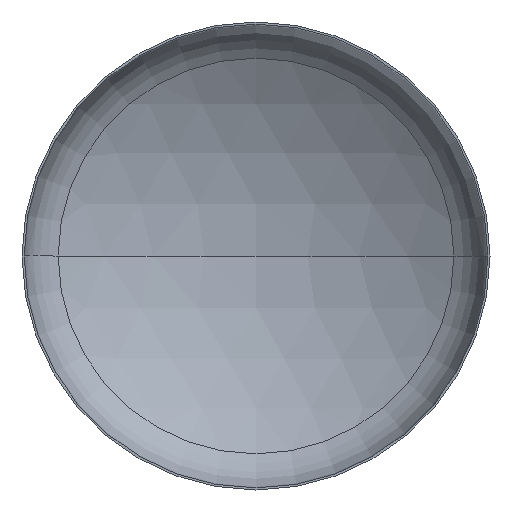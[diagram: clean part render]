
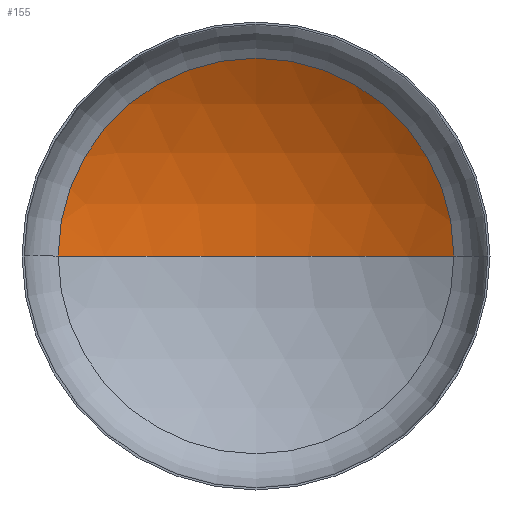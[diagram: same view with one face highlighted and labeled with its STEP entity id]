
A CAD part, front view. The second image highlights one B-rep face of the part: STEP entity #155.
In plain terms, the highlighted spherical face has radius 1920 mm.
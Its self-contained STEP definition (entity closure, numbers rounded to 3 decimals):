
#4 = AXIS2_PLACEMENT_3D ( 'NONE', #314, #82, #350 ) ;
#6 = DIRECTION ( 'NONE',  ( 0., 0., -1. ) ) ;
#10 = CARTESIAN_POINT ( 'NONE',  ( 0., -1275.956, 0. ) ) ;
#17 = CARTESIAN_POINT ( 'NONE',  ( 0., 644.044, 0. ) ) ;
#19 = AXIS2_PLACEMENT_3D ( 'NONE', #156, #226, #169 ) ;
#20 = CARTESIAN_POINT ( 'NONE',  ( 1014.503, 354.131, 0. ) ) ;
#30 = AXIS2_PLACEMENT_3D ( 'NONE', #10, #6, #256 ) ;
#33 = AXIS2_PLACEMENT_3D ( 'NONE', #161, #164, #165 ) ;
#38 = CARTESIAN_POINT ( 'NONE',  ( -1014.503, 354.131, 0. ) ) ;
#69 = ORIENTED_EDGE ( 'NONE', *, *, #105, .T. ) ;
#81 = EDGE_CURVE ( 'NONE', #154, #251, #196, .T. ) ;
#82 = DIRECTION ( 'NONE',  ( 0., 0., 1. ) ) ;
#105 = EDGE_CURVE ( 'NONE', #248, #154, #258, .T. ) ;
#154 = VERTEX_POINT ( 'NONE', #20 ) ;
#155 = ADVANCED_FACE ( 'NONE', ( #332 ), #250, .F. ) ;
#156 = CARTESIAN_POINT ( 'NONE',  ( 0., -1275.956, 0. ) ) ;
#161 = CARTESIAN_POINT ( 'NONE',  ( 0., 354.131, 0. ) ) ;
#164 = DIRECTION ( 'NONE',  ( 0., -1., 0. ) ) ;
#165 = DIRECTION ( 'NONE',  ( 1., 0., 0. ) ) ;
#169 = DIRECTION ( 'NONE',  ( -1., 0., 0. ) ) ;
#177 = EDGE_LOOP ( 'NONE', ( #184, #69, #254 ) ) ;
#184 = ORIENTED_EDGE ( 'NONE', *, *, #338, .F. ) ;
#196 = CIRCLE ( 'NONE', #33, 1014.503 ) ;
#226 = DIRECTION ( 'NONE',  ( 0., 0., -1. ) ) ;
#227 = CIRCLE ( 'NONE', #4, 1920. ) ;
#248 = VERTEX_POINT ( 'NONE', #17 ) ;
#250 = SPHERICAL_SURFACE ( 'NONE', #19, 1920. ) ;
#251 = VERTEX_POINT ( 'NONE', #38 ) ;
#254 = ORIENTED_EDGE ( 'NONE', *, *, #81, .T. ) ;
#256 = DIRECTION ( 'NONE',  ( -1., 0., 0. ) ) ;
#258 = CIRCLE ( 'NONE', #30, 1920. ) ;
#314 = CARTESIAN_POINT ( 'NONE',  ( 0., -1275.956, 0. ) ) ;
#332 = FACE_OUTER_BOUND ( 'NONE', #177, .T. ) ;
#338 = EDGE_CURVE ( 'NONE', #248, #251, #227, .T. ) ;
#350 = DIRECTION ( 'NONE',  ( 1., 0., 0. ) ) ;
